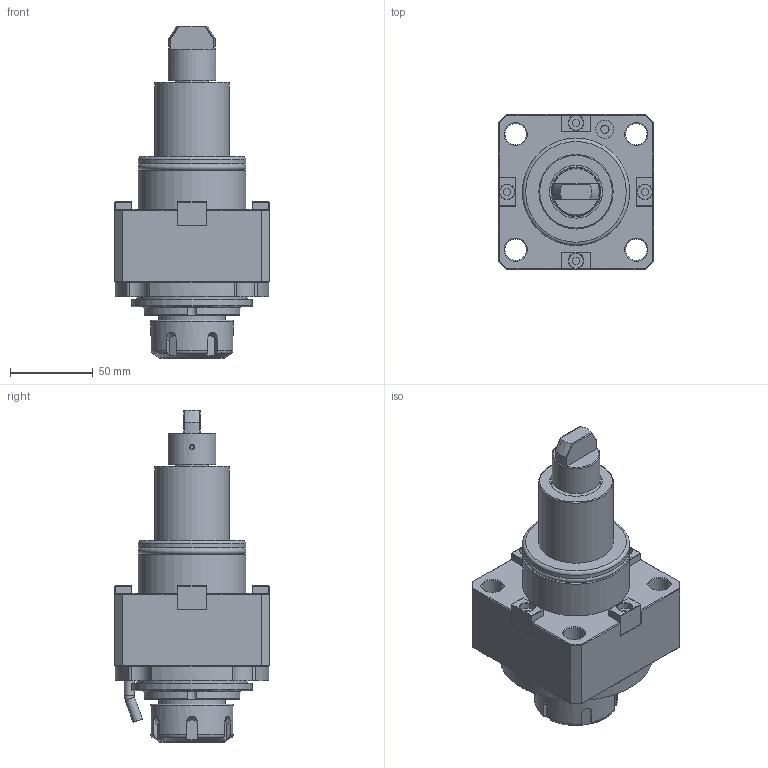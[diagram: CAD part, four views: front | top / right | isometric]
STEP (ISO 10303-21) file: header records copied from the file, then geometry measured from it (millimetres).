
FILE_DESCRIPTION(/* description */ (''),/* implementation_level */ '2;1');
FILE_NAME(/* name */ 'BMT65-0-N-ER32.stp',/* time_stamp */ '2025-10-10T16:17:35+03:00',/* author */ ('User'),/* organization */ (''),/* preprocessor_version */ 'ST-DEVELOPER v19.2',/* originating_system */ 'Autodesk Inventor 2024',/* authorisation */ '');
FILE_SCHEMA (('AUTOMOTIVE_DESIGN { 1 0 10303 214 3 1 1 }'));
Length unit declared in the file: millimetre
Products named in the file (3): BMT65-0-N-ER32; Осевой приводной 
цанговый блок BMT4
5-0-ER25; Крепление
Assembly tree (2 placements, depth 2):
  BMT65-0-N-ER32
    Осевой приводной 
цанговый блок BMT4
5-0-ER25
    Крепление
Bounding box: 94 x 94 x 201 mm (x, y, z)
Volume: 665977.4 mm3; surface area: 85210.9 mm2
Topology: 2 solids, 2 shells, 538 faces, 1360 edges, 878 vertices
Faces by surface type: plane 343, cylinder 85, bspline 57, cone 30, torus 21, sphere 2
Full cylindrical faces by diameter (mm): 2.5 x2, 4 x2, 5 x1, 6 x2, 7.5 x5, 8 x5, 9 x4, 10 x1, 11 x1, 11.5 x1, 13 x4, 16 x1, 19 x4, 20 x1, 29 x1, 30 x1, 32 x1, 32.5 x1, 39 x2, 40 x1, 45 x1, 50 x1, 61 x2, 65 x2, 67 x1, 73 x1
Entity records: 17668 total; most frequent: CARTESIAN_POINT 4603, ORIENTED_EDGE 2716, DIRECTION 2424, EDGE_CURVE 1358, LINE 888, VECTOR 888, VERTEX_POINT 877, AXIS2_PLACEMENT_3D 768
